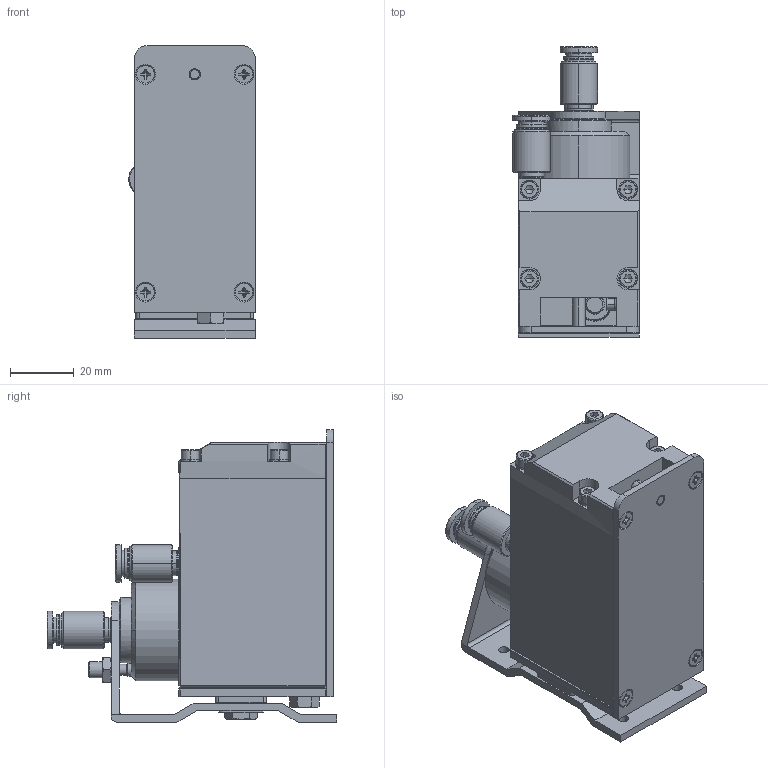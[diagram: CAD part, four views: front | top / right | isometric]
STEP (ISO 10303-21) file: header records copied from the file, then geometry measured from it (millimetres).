
FILE_DESCRIPTION (( 'STEP AP214' ), '1' );
FILE_NAME ('GT-NT10R-6.STEP', '2019-11-27T08:57:03', ( '微软用户' ), ( '微软中国' ), 'SwSTEP 2.0', 'SolidWorks 2016', '' );
FILE_SCHEMA (( 'AUTOMOTIVE_DESIGN' ));
Length unit declared in the file: millimetre
Products named in the file (1): GT-NT10R-6
Bounding box: 39.75 x 91.15 x 92 mm (x, y, z)
Surface area: 45923.1 mm2 (no closed solid volume)
Topology: 0 solids, 41 shells, 1069 faces, 2626 edges, 1659 vertices
Faces by surface type: plane 477, cylinder 283, bspline 221, cone 64, torus 24
Entity records: 47058 total; most frequent: CARTESIAN_POINT 17952, ORIENTED_EDGE 5114, DIRECTION 4248, EDGE_CURVE 2590, VERTEX_POINT 1659, AXIS2_PLACEMENT_3D 1591, EDGE_LOOP 1209, ADVANCED_FACE 1069
